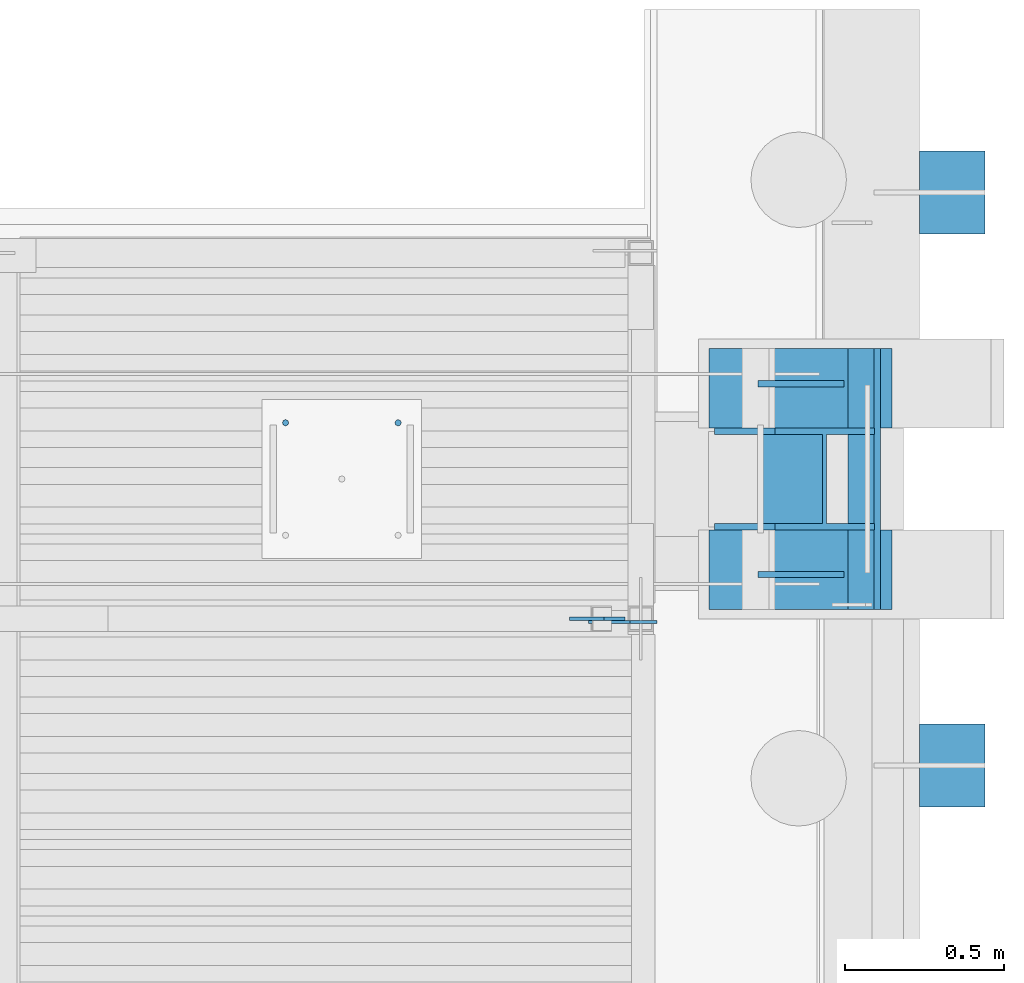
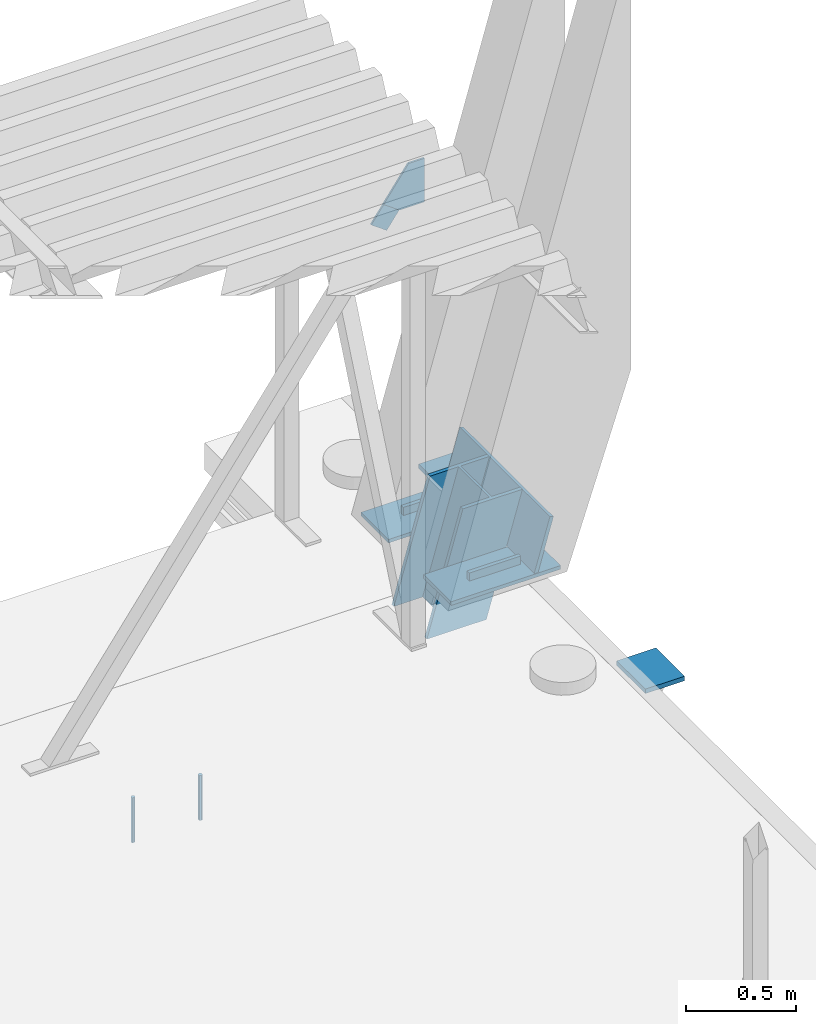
# One storey, part 24 of 30: 10 beams, 2 members.
"""IFC2X3 building model written with IfcOpenShell, lengths in millimetres."""

from ifc_helpers import new_model, entity, si_unit, converted_unit, derived_unit, direction, frame, origin_with_axes, place, context, subcontext, project, spatial, faceted_brep, material, type_object, element, save


model = new_model("IFC2X3")

# Units and contexts
model_context = context("Model", 3, precision=0.01, world=frame((0.0, 4.29681676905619e-09, 0.0)), true_north=direction((4.01073788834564e-13, 1.0)))
plan_context = context("Plan", 3, precision=0.01, world=frame((0.0, 4.29681676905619e-09, 0.0)), true_north=direction((4.01073788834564e-13, 1.0)))
body_context = subcontext(model_context, "Body", "Model", "MODEL_VIEW")
ifc_project = project(units=[converted_unit("PLANEANGLEUNIT", "DEGREE", entity("IfcPositiveLengthMeasure", 0.0174532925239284), si_unit("PLANEANGLEUNIT", "RADIAN"), dimensions=[0, 0, 0, 0, 0, 0, 0]), si_unit("AREAUNIT", "SQUARE_METRE"), si_unit("LENGTHUNIT", "METRE", prefix="MILLI"), si_unit("MASSUNIT", "GRAM", prefix="KILO"), si_unit("POWERUNIT", "WATT"), si_unit("PRESSUREUNIT", "PASCAL"), si_unit("FORCEUNIT", "NEWTON", prefix="KILO"), si_unit("ELECTRICVOLTAGEUNIT", "VOLT"), si_unit("ELECTRICCURRENTUNIT", "AMPERE"), si_unit("THERMODYNAMICTEMPERATUREUNIT", "DEGREE_CELSIUS"), si_unit("TIMEUNIT", "SECOND"), si_unit("VOLUMEUNIT", "CUBIC_METRE"), derived_unit("LINEARVELOCITYUNIT", [(si_unit("LENGTHUNIT", "METRE"), 1), (si_unit("TIMEUNIT", "SECOND"), -1)]), derived_unit("VOLUMETRICFLOWRATEUNIT", [(si_unit("VOLUMEUNIT", "CUBIC_METRE"), 1), (si_unit("TIMEUNIT", "SECOND"), -1)]), derived_unit("THERMALTRANSMITTANCEUNIT", [(si_unit("POWERUNIT", "WATT"), 1), (si_unit("THERMODYNAMICTEMPERATUREUNIT", "KELVIN"), -1), (si_unit("AREAUNIT", "SQUARE_METRE"), -1)]), derived_unit("SOUNDPRESSUREUNIT", [(si_unit("PRESSUREUNIT", "PASCAL"), 1)])], contexts=[model_context, plan_context])

# Site, building, storey
site_placement = place(None, frame((0.0, -4.29681676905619e-09, 0.0), z_axis=(0.0, 0.0, 1.0), x_axis=(1.0, 0.0, 0.0)))
site = spatial("IfcSite", under=ifc_project, at=site_placement, Name="Gardermoen", CompositionType="ELEMENT")
building_placement = place(site_placement, frame((0.0, 4.29681676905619e-09, 0.0), z_axis=(0.0, 0.0, 1.0), x_axis=(1.0, 0.0, 0.0)))
building = spatial("IfcBuilding", under=site, at=building_placement, Name="TI", CompositionType="ELEMENT")
storey_placement = place(building_placement, origin_with_axes())
storey = spatial("IfcBuildingStorey", under=building, at=storey_placement, Name="F", CompositionType="ELEMENT", Elevation=0.0)

# Beams
ifc_material_1 = material(Name="STEEL/S355J2H")
beam_type_1 = type_object("IfcBeamType", Name="PL10*100", PredefinedType="NOTDEFINED")
beam_1_placement = place(storey_placement, frame((611214.434970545, 697561.02355867, 213404.80629627), z_axis=(0.81117847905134, 1.30700005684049e-06, -0.584798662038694), x_axis=(-0.584798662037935, -9.42000062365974e-07, -0.811178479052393)))
element("IfcBeam", 1, at=beam_1_placement, inside=storey, type_object=beam_type_1, material=ifc_material_1, Name="STÅLBJELKE", ObjectType="PL10*100", context=body_context, shape_type="Brep", body=[
    faceted_brep([(0.0, -4.99999999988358, -50.0000000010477), (8.73114913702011e-11, 5.00000000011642, -50.0000000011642), (184.999991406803, 4.99999999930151, -49.9999999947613), (184.999991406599, -5.00000000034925, -49.9999999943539), (184.999991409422, -5.00000000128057, 50.000000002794), (184.999991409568, 4.99999999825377, 50.0000000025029), (26.2511065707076, -5.00000000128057, 49.9999999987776), (1.39698386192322e-09, -5.00000000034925, 31.0749269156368), (1.28056854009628e-09, 4.99999999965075, 31.0749467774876), (26.2510790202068, 4.99999999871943, 49.9999999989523)], [[[0, 1, 2, 3]], [[4, 3, 2, 5]], [[0, 3, 4, 6, 7]], [[1, 0, 7, 8]], [[5, 2, 1, 8, 9]], [[4, 5, 9, 6]], [[8, 7, 6, 9]]]),
])
ifc_material_2 = material(Name="STEEL/S355")
beam_type_2 = type_object("IfcBeamType", Name="PL20*250", PredefinedType="NOTDEFINED")
for number, where, z_axis, x_axis in (
    (2, (611503.803858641, 697714.760836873, 211010.046465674), (0.0, -1.0, 0.0), (1.0, 0.0, 0.0)),
    (3, (611503.803858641, 698284.760836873, 211010.046465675), (0.0, -1.0, 0.0), (1.0, 0.0, 0.0)),
):
    element("IfcBeam", number, at=place(storey_placement, frame(where, z_axis=z_axis, x_axis=x_axis)), inside=storey, type_object=beam_type_2, material=ifc_material_2, Name="STÅLSØYLE", ObjectType="PL20*250", context=body_context, shape_type="Brep", body=[
        faceted_brep([(-3.72529029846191e-09, 9.99999999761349, -125.000000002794), (3.37604433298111e-09, 10.0000000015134, 125.000000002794), (574.793932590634, 9.99999999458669, 125.0), (574.793932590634, 9.99999999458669, -125.0), (3.72529029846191e-09, -9.99999999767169, 125.000000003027), (574.793932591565, -10.0000000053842, 125.0), (-3.37604433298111e-09, -10.0000000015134, -125.000000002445), (574.793932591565, -10.0000000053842, -125.0)], [[[0, 1, 2, 3]], [[1, 4, 5, 2]], [[4, 6, 7, 5]], [[6, 0, 3, 7]], [[5, 7, 3, 2]], [[6, 4, 1, 0]]]),
    ])
beam_type_3 = type_object("IfcBeamType", Name="PL20*45", PredefinedType="NOTDEFINED")
for number, where, z_axis, x_axis in (
    (4, (611927.198710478, 697700.239163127, 211042.54612698), (0.0, 0.0, 1.0), (-0.999999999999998, 5.80000057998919e-08, 0.0)),
    (5, (611927.198710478, 698299.760836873, 211042.54612698), (0.0, 0.0, 1.0), (-0.999999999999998, 5.80000057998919e-08, 0.0)),
):
    element("IfcBeam", number, at=place(storey_placement, frame(where, z_axis=z_axis, x_axis=x_axis)), inside=storey, type_object=beam_type_3, material=ifc_material_2, Name="STÅLSØYLE", ObjectType="PL20*45", context=body_context, shape_type="Brep", body=[
        faceted_brep([(2.3283064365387e-10, 10.0, -22.4999999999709), (0.0, 10.0, 22.5000000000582), (270.0, 10.0, 22.5000000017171), (270.000000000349, 10.0, -22.499999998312), (0.0, -10.0, 22.5000000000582), (270.0, -10.0, 22.5000000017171), (2.3283064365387e-10, -10.0, -22.4999999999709), (270.000000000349, -10.0, -22.499999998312)], [[[0, 1, 2, 3]], [[1, 4, 5, 2]], [[4, 6, 7, 5]], [[6, 0, 3, 7]], [[5, 7, 3, 2]], [[6, 4, 1, 0]]]),
    ])
beam_type_4 = type_object("IfcBeamType", Name="PL260*25", PredefinedType="NOTDEFINED")
for number, where, z_axis, x_axis in (
    (6, (612165.000134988, 698899.954223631, 210667.500000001), (0.0, 1.0, 0.0), (0.999999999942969, 0.0, 1.06800001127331e-05)),
    (7, (612165.000134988, 697100.027465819, 210667.500000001), (0.0, 1.0, 0.0), (0.999999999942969, 0.0, 1.06800001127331e-05)),
):
    element("IfcBeam", number, at=place(storey_placement, frame(where, z_axis=z_axis, x_axis=x_axis)), inside=storey, type_object=beam_type_4, material=ifc_material_2, Name="STÅLBJELKE", ObjectType="PL260*25", context=body_context, shape_type="Brep", body=[
        faceted_brep([(-5.82076609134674e-10, 12.5, -130.0), (-5.82076609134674e-10, 12.5, 130.0), (206.026725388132, 12.5000000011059, 130.0), (206.026725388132, 12.5000000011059, -130.0), (3.49245965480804e-10, -12.4999999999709, 130.0), (206.026725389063, -12.499999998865, 130.0), (3.49245965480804e-10, -12.4999999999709, -130.0), (206.026725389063, -12.499999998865, -130.0)], [[[0, 1, 2, 3]], [[1, 4, 5, 2]], [[4, 6, 7, 5]], [[6, 0, 3, 7]], [[5, 7, 3, 2]], [[6, 4, 1, 0]]]),
    ])
beam_type_5 = type_object("IfcBeamType", Name="PL10*215", PredefinedType="NOTDEFINED")
beam_2_placement = place(storey_placement, frame((611255.844961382, 697551.023665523, 213564.847898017), z_axis=(-2.87545844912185e-11, -4.52680543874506e-17, -1.0), x_axis=(0.999999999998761, 1.57428998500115e-06, -2.87545844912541e-11)))
element("IfcBeam", 8, at=beam_2_placement, inside=storey, type_object=beam_type_5, material=ifc_material_1, Name="STÅLBJELKE", ObjectType="PL10*215", context=body_context, shape_type="Brep", body=[
    faceted_brep([(0.0, -5.0, 0.0), (-131.017745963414, -4.99999999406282, 181.739105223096), (-131.017745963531, 5.00000000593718, 181.73910522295), (0.0, 5.0, 0.0), (-47.1415824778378, -4.99999999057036, 242.203765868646), (-47.1415824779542, 5.00000000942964, 242.203765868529), (83.7981567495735, -4.99999998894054, 242.203735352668), (83.7981567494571, 5.00000001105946, 242.203735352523), (83.798141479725, -4.99999999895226, 5.03496266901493e-09), (83.7981414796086, 5.00000000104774, 4.918547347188e-09)], [[[0, 1, 2, 3]], [[1, 4, 5, 2]], [[4, 6, 7, 5]], [[6, 8, 9, 7]], [[8, 0, 3, 9]], [[5, 7, 9, 3, 2]], [[8, 6, 4, 1, 0]]]),
])
beam_type_6 = type_object("IfcBeamType", Name="M20", PredefinedType="NOTDEFINED")
for number, where, z_axis, x_axis in (
    (9, (610526.779766, 698176.78, 210050.0), (1.0, 0.0, 0.0), (0.0, 0.0, -1.0)),
    (10, (610173.219766, 698176.78, 210050.0), (1.0, 0.0, 0.0), (0.0, 0.0, -1.0)),
):
    element("IfcBeam", number, at=place(storey_placement, frame(where, z_axis=z_axis, x_axis=x_axis)), inside=storey, type_object=beam_type_6, material=ifc_material_2, Name="INNSTØPNGODS", ObjectType="M20", context=body_context, shape_type="Brep", body=[
        faceted_brep([(0.0, -10.0, -1.16415321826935e-10), (0.0, -7.07106781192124, -7.07106781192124), (250.0, -7.07106781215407, -7.07106781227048), (250.0, -10.0000000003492, 1.74622982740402e-10), (0.0, 0.0, -10.0), (250.0, 5.82076609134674e-11, -10.0000000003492), (0.0, 7.07106781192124, -7.07106781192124), (250.0, 7.07106781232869, -7.07106781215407), (0.0, 10.0, -1.16415321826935e-10), (250.0, 10.0, 0.0), (0.0, 7.07106781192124, 7.07106781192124), (250.0, 7.07106781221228, 7.07106781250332), (0.0, 0.0, 10.0), (250.0, -5.82076609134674e-11, 10.0000000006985), (0.0, -7.07106781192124, 7.07106781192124), (250.0, -7.07106781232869, 7.07106781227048)], [[[0, 1, 2, 3]], [[1, 4, 5, 2]], [[4, 6, 7, 5]], [[6, 8, 9, 7]], [[8, 10, 11, 9]], [[10, 12, 13, 11]], [[12, 14, 15, 13]], [[14, 0, 3, 15]], [[5, 7, 9, 11, 13, 15, 3, 2]], [[14, 12, 10, 8, 6, 4, 1, 0]]]),
    ])

# Members
member_type_1 = type_object("IfcMemberType", Name="PL20*820", PredefinedType="NOTDEFINED")
member_1_placement = place(storey_placement, frame((611949.715842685, 697999.760836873, 211022.811252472), z_axis=(0.0, -1.0, 0.0), x_axis=(0.276515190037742, 0.0, 0.961009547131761)))
element("IfcMember", 11, at=member_1_placement, inside=storey, type_object=member_type_1, material=ifc_material_2, Name="STÅLSØYLE", ObjectType="PL20*820", context=body_context, shape_type="Brep", body=[
    faceted_brep([(-1.30967237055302e-10, 9.99999999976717, -410.0), (-1.30967237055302e-10, 9.99999999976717, 410.0), (296.760056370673, 9.99999998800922, 410.0), (296.760056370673, 9.99999998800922, -410.0), (1.30967237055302e-10, -10.0000000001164, 410.0), (296.760056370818, -10.000000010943, 410.0), (1.30967237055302e-10, -10.0000000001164, -410.0), (296.760056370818, -10.000000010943, -410.0)], [[[0, 1, 2, 3]], [[1, 4, 5, 2]], [[4, 6, 7, 5]], [[6, 0, 3, 7]], [[5, 7, 3, 2]], [[6, 4, 1, 0]]]),
])
member_type_2 = type_object("IfcMemberType", Name="HEB320", PredefinedType="NOTDEFINED")
member_2_placement = place(storey_placement, frame((611679.628214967, 697999.760836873, 210662.770313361), z_axis=(0.0, 1.0, 0.0), x_axis=(0.276515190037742, 0.0, 0.961009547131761)))
element("IfcMember", 12, at=member_2_placement, inside=storey, type_object=member_type_2, material=ifc_material_2, Name="STÅLSØYLE", ObjectType="HEB320", context=body_context, shape_type="Brep", body=[
    faceted_brep([(35.0751338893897, 150.000000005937, -160.0), (35.0751338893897, 150.000000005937, -139.5), (718.449082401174, 149.999999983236, -139.5), (718.449082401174, 149.999999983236, -160.0), (-6.43050823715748, 5.75000000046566, -139.5), (676.943440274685, 5.74999997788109, -139.5), (-6.43050823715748, 5.75000000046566, 139.5), (676.943440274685, 5.74999997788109, 139.5), (35.0751338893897, 150.000000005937, 139.5), (718.449082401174, 149.999999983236, 139.5), (35.0751338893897, 150.000000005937, 160.0), (718.449082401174, 149.999999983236, 160.0), (-51.2450923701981, -150.000000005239, 160.0), (632.128815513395, -150.000000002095, 160.0), (-51.2450923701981, -150.000000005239, 139.5), (632.128815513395, -150.000000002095, 139.5), (-9.73945024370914, -5.74999999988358, 139.5), (673.634498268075, -5.75000002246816, 139.5), (-9.73945024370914, -5.74999999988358, -139.5), (673.634498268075, -5.75000002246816, -139.5), (-51.2450923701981, -150.000000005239, -139.5), (632.128815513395, -150.000000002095, -139.5), (-51.2450923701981, -150.000000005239, -160.0), (632.128815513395, -150.000000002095, -160.0)], [[[0, 1, 2, 3]], [[1, 4, 5, 2]], [[4, 6, 7, 5]], [[6, 8, 9, 7]], [[8, 10, 11, 9]], [[10, 12, 13, 11]], [[12, 14, 15, 13]], [[14, 16, 17, 15]], [[16, 18, 19, 17]], [[18, 20, 21, 19]], [[20, 22, 23, 21]], [[22, 0, 3, 23]], [[5, 7, 9, 11, 13, 15, 17, 19, 21, 23, 3, 2]], [[22, 20, 18, 16, 14, 12, 10, 8, 6, 4, 1, 0]]]),
])

save(model, "model.ifc")
